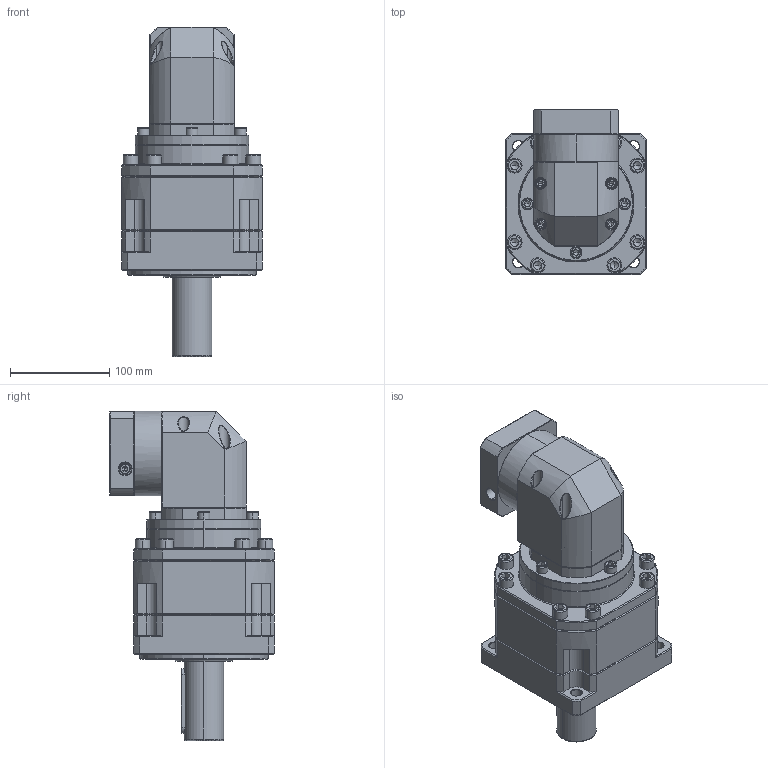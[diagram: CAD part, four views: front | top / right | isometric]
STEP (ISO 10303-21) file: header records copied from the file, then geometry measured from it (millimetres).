
FILE_DESCRIPTION (( 'STEP AP214' ), '1' );
FILE_NAME ('ZBR142A-D40-L3-P2-19-70-90-M5.step', '2023-09-02T08:39:55', ( '' ), ( '' ), 'SwSTEP 2.0', 'SolidWorks 2016', '' );
FILE_SCHEMA (( 'AUTOMOTIVE_DESIGN' ));
Length unit declared in the file: millimetre
Products named in the file (1): ZBR142A-D40-L3-P2-19-70-90-M5
Bounding box: 142 x 166.1 x 332.2 mm (x, y, z)
Volume: 3353446 mm3; surface area: 243303.6 mm2
Topology: 6 solids, 6 shells, 2724 faces, 7009 edges, 4413 vertices
Faces by surface type: plane 1327, cylinder 524, bspline 467, cone 392, torus 14
Entity records: 144708 total; most frequent: CARTESIAN_POINT 52481, ORIENTED_EDGE 13878, DIRECTION 11285, EDGE_CURVE 6939, VECTOR 4459, LINE 4459, VERTEX_POINT 4413, AXIS2_PLACEMENT_3D 3413
